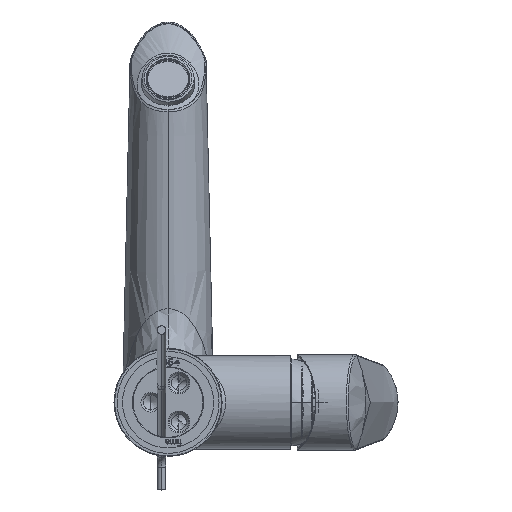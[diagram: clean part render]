
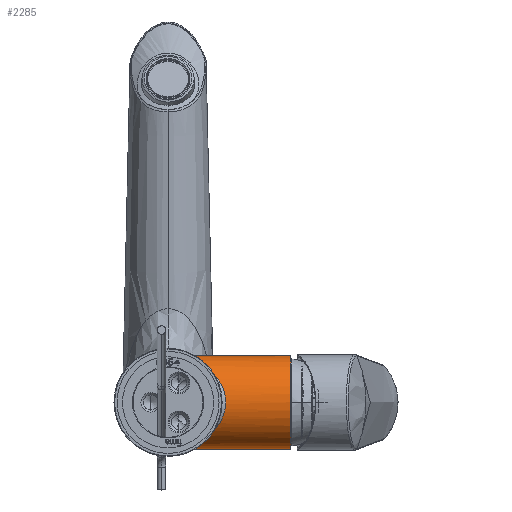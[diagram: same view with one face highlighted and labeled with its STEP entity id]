
A CAD part, front view. The second image highlights one B-rep face of the part: STEP entity #2285.
In plain terms, the highlighted cylindrical face has radius 21.5 mm (diameter 43 mm), a partial arc.
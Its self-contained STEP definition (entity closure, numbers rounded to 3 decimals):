
#538=DIRECTION('',(0.,0.,1.));
#539=VECTOR('',#538,56.5);
#540=CARTESIAN_POINT('',(21.5,55.,0.));
#541=LINE('',#540,#539);
#542=CARTESIAN_POINT('',(0.,55.,56.5));
#543=DIRECTION('',(0.,0.,1.));
#544=DIRECTION('',(-1.,0.,0.));
#545=AXIS2_PLACEMENT_3D('',#542,#543,#544);
#547=CARTESIAN_POINT('',(-21.5,55.,0.));
#548=CARTESIAN_POINT('',(-21.5,54.118,1.088));
#549=CARTESIAN_POINT('',(-21.389,52.53,3.044));
#550=CARTESIAN_POINT('',(-21.109,50.827,5.144));
#551=CARTESIAN_POINT('',(-20.77,49.381,6.926));
#552=CARTESIAN_POINT('',(-20.313,47.888,8.766));
#553=CARTESIAN_POINT('',(-19.656,46.224,10.816));
#554=CARTESIAN_POINT('',(-18.846,44.599,12.82));
#555=CARTESIAN_POINT('',(-17.932,43.103,14.664));
#556=CARTESIAN_POINT('',(-17.037,41.853,16.205));
#557=CARTESIAN_POINT('',(-15.918,40.511,17.859));
#558=CARTESIAN_POINT('',(-14.672,39.251,19.412));
#559=CARTESIAN_POINT('',(-13.363,38.133,20.79));
#560=CARTESIAN_POINT('',(-12.145,37.234,21.898));
#561=CARTESIAN_POINT('',(-10.62,36.274,23.081));
#562=CARTESIAN_POINT('',(-8.902,35.397,24.162));
#563=CARTESIAN_POINT('',(-7.131,34.691,25.032));
#564=CARTESIAN_POINT('',(-5.475,34.181,25.661));
#565=CARTESIAN_POINT('',(-3.396,33.728,26.219));
#566=CARTESIAN_POINT('',(-0.962,33.472,26.535));
#567=CARTESIAN_POINT('',(1.576,33.509,26.488));
#568=CARTESIAN_POINT('',(3.937,33.824,26.1));
#569=CARTESIAN_POINT('',(5.908,34.302,25.512));
#570=CARTESIAN_POINT('',(7.537,34.837,24.851));
#571=CARTESIAN_POINT('',(9.318,35.591,23.923));
#572=CARTESIAN_POINT('',(10.992,36.492,22.812));
#573=CARTESIAN_POINT('',(12.44,37.441,21.643));
#574=CARTESIAN_POINT('',(13.646,38.36,20.51));
#575=CARTESIAN_POINT('',(14.92,39.487,19.12));
#576=CARTESIAN_POINT('',(16.109,40.727,17.593));
#577=CARTESIAN_POINT('',(17.167,42.024,15.993));
#578=CARTESIAN_POINT('',(18.051,43.284,14.441));
#579=CARTESIAN_POINT('',(18.93,44.756,12.626));
#580=CARTESIAN_POINT('',(19.697,46.324,10.694));
#581=CARTESIAN_POINT('',(20.325,47.925,8.721));
#582=CARTESIAN_POINT('',(20.78,49.415,6.883));
#583=CARTESIAN_POINT('',(21.127,50.908,5.044));
#584=CARTESIAN_POINT('',(21.401,52.635,2.915));
#585=CARTESIAN_POINT('',(21.5,54.162,1.033));
#586=CARTESIAN_POINT('',(21.5,55.,0.));
#588=DIRECTION('',(0.,0.,1.));
#589=VECTOR('',#588,56.5);
#590=CARTESIAN_POINT('',(-21.5,55.,0.));
#591=LINE('',#590,#589);
#661=CARTESIAN_POINT('',(21.5,55.,0.));
#700=CARTESIAN_POINT('',(-21.5,55.,0.));
#1525=VERTEX_POINT('',#661);
#1526=VERTEX_POINT('',#700);
#1543=CARTESIAN_POINT('',(21.5,55.,56.5));
#1544=CARTESIAN_POINT('',(-21.5,55.,56.5));
#1545=VERTEX_POINT('',#1543);
#1546=VERTEX_POINT('',#1544);
#2273=CARTESIAN_POINT('',(0.,55.,0.));
#2274=DIRECTION('',(0.,0.,1.));
#2275=DIRECTION('',(1.,0.,0.));
#2276=AXIS2_PLACEMENT_3D('',#2273,#2274,#2275);
#2277=CYLINDRICAL_SURFACE('',#2276,21.5);
#2278=ORIENTED_EDGE('',*,*,#2249,.T.);
#2279=ORIENTED_EDGE('',*,*,#2268,.F.);
#2281=ORIENTED_EDGE('',*,*,#2280,.F.);
#2282=ORIENTED_EDGE('',*,*,#2264,.T.);
#2283=EDGE_LOOP('',(#2278,#2279,#2281,#2282));
#2284=FACE_OUTER_BOUND('',#2283,.F.);
#2285=ADVANCED_FACE('',(#2284),#2277,.T.);
#546=CIRCLE('',#545,21.5);
#587=B_SPLINE_CURVE_WITH_KNOTS('',3,(#547,#548,#549,#550,#551,#552,#553,#554,
#555,#556,#557,#558,#559,#560,#561,#562,#563,#564,#565,#566,#567,#568,#569,#570,
#571,#572,#573,#574,#575,#576,#577,#578,#579,#580,#581,#582,#583,#584,#585,
#586),.UNSPECIFIED.,.F.,.F.,(4,1,1,1,1,1,1,1,1,1,1,1,1,1,1,1,1,1,1,1,1,1,1,1,1,
1,1,1,1,1,1,1,1,1,1,1,1,4),(0.,0.027,0.054,
0.081,0.108,0.135,0.162,
0.189,0.216,0.243,0.27,
0.297,0.324,0.351,0.378,
0.405,0.432,0.459,0.486,
0.514,0.541,0.568,0.595,
0.622,0.649,0.676,0.703,
0.73,0.757,0.784,0.811,
0.838,0.865,0.892,0.919,
0.946,0.973,1.),.UNSPECIFIED.);
#2249=EDGE_CURVE('',#1546,#1545,#546,.T.);
#2264=EDGE_CURVE('',#1526,#1546,#591,.T.);
#2268=EDGE_CURVE('',#1525,#1545,#541,.T.);
#2280=EDGE_CURVE('',#1526,#1525,#587,.T.);
